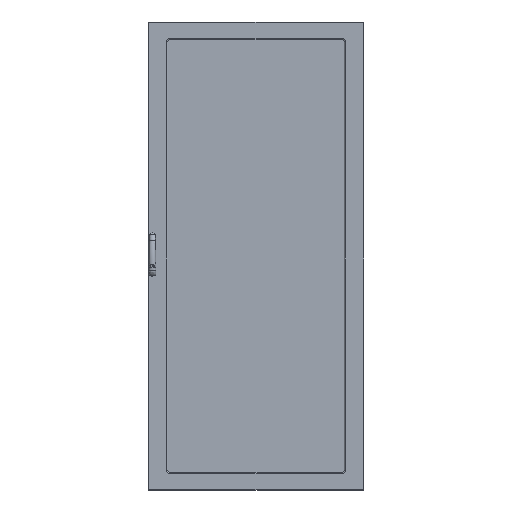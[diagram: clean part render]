
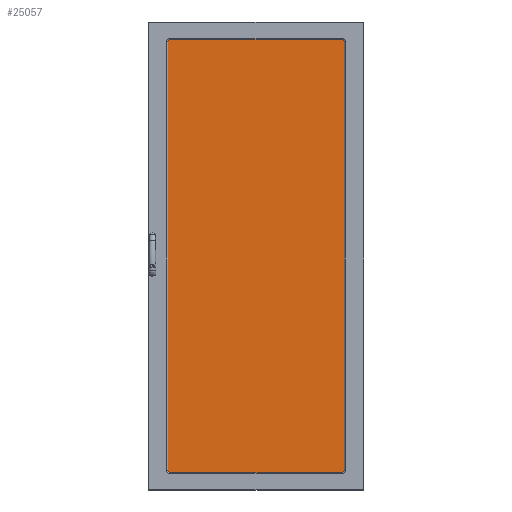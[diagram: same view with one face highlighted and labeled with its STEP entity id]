
A CAD part, top view. The second image highlights one B-rep face of the part: STEP entity #25057.
In plain terms, the highlighted planar face has unit normal (0, 0, 1).
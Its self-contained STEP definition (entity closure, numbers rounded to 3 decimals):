
#123 = ORIENTED_EDGE ( 'NONE', *, *, #37259, .T. ) ;
#3114 = EDGE_CURVE ( 'NONE', #37425, #26516, #34993, .T. ) ;
#3319 = ORIENTED_EDGE ( 'NONE', *, *, #20131, .T. ) ;
#3428 = EDGE_LOOP ( 'NONE', ( #123, #27642, #10146, #3319 ) ) ;
#3940 = CARTESIAN_POINT ( 'NONE',  ( 0., 0., 4. ) ) ;
#4534 = DIRECTION ( 'NONE',  ( -1., 0., 0. ) ) ;
#4833 = VECTOR ( 'NONE', #4534, 1000. ) ;
#6691 = VERTEX_POINT ( 'NONE', #3940 ) ;
#6800 = VECTOR ( 'NONE', #18675, 1000. ) ;
#7418 = LINE ( 'NONE', #30767, #4833 ) ;
#9033 = CARTESIAN_POINT ( 'NONE',  ( 2031., 0., 4. ) ) ;
#10146 = ORIENTED_EDGE ( 'NONE', *, *, #15269, .T. ) ;
#10824 = CARTESIAN_POINT ( 'NONE',  ( 0., 0., 4. ) ) ;
#11641 = VECTOR ( 'NONE', #23492, 1000. ) ;
#11674 = CARTESIAN_POINT ( 'NONE',  ( 0., -846., 4. ) ) ;
#12588 = LINE ( 'NONE', #24245, #19676 ) ;
#13704 = LINE ( 'NONE', #10824, #6800 ) ;
#15269 = EDGE_CURVE ( 'NONE', #26516, #16523, #12588, .T. ) ;
#16523 = VERTEX_POINT ( 'NONE', #9033 ) ;
#18675 = DIRECTION ( 'NONE',  ( 0., -1., 0. ) ) ;
#19676 = VECTOR ( 'NONE', #35938, 1000. ) ;
#20131 = EDGE_CURVE ( 'NONE', #16523, #6691, #7418, .T. ) ;
#20429 = CARTESIAN_POINT ( 'NONE',  ( 0., -846., 4. ) ) ;
#23112 = CARTESIAN_POINT ( 'NONE',  ( 2031., -846., 4. ) ) ;
#23492 = DIRECTION ( 'NONE',  ( 1., 0., 0. ) ) ;
#24245 = CARTESIAN_POINT ( 'NONE',  ( 2031., 0., 4. ) ) ;
#25057 = ADVANCED_FACE ( 'NONE', ( #26204 ), #31777, .T. ) ;
#26204 = FACE_OUTER_BOUND ( 'NONE', #3428, .T. ) ;
#26516 = VERTEX_POINT ( 'NONE', #23112 ) ;
#27642 = ORIENTED_EDGE ( 'NONE', *, *, #3114, .T. ) ;
#29006 = CARTESIAN_POINT ( 'NONE',  ( 0., -846., 4. ) ) ;
#29082 = DIRECTION ( 'NONE',  ( 0., 0., 1. ) ) ;
#30767 = CARTESIAN_POINT ( 'NONE',  ( 0., 0., 4. ) ) ;
#31765 = AXIS2_PLACEMENT_3D ( 'NONE', #11674, #29082, #37891 ) ;
#31777 = PLANE ( 'NONE',  #31765 ) ;
#34993 = LINE ( 'NONE', #20429, #11641 ) ;
#35938 = DIRECTION ( 'NONE',  ( 0., 1., 0. ) ) ;
#37259 = EDGE_CURVE ( 'NONE', #6691, #37425, #13704, .T. ) ;
#37425 = VERTEX_POINT ( 'NONE', #29006 ) ;
#37891 = DIRECTION ( 'NONE',  ( 1., 0., 0. ) ) ;
